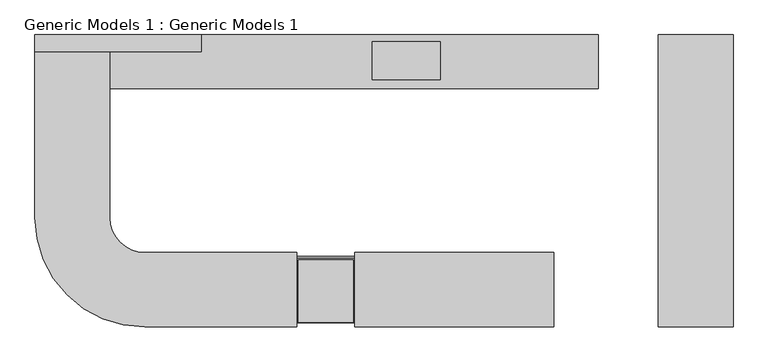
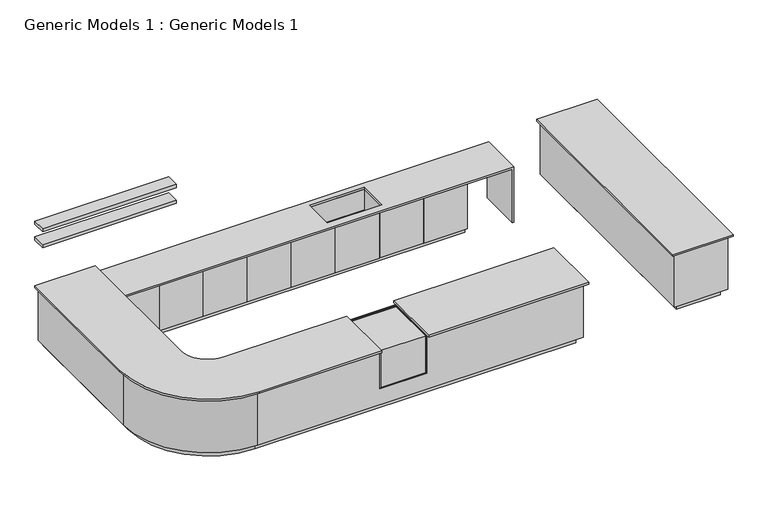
"""IFC4 building model written with IfcOpenShell, lengths in millimetres: proxy geometry, Generic Models 1 : Generic Models 1."""

from ifc_helpers import new_model, si_unit, point, frame, frame_2d, origin, origin_with_axes, place, context, project, spatial, polyline, circle_curve, trimmed, segment, composite_curve, outline, extrude, faceted_brep, source, transform, mapped, element, save
from ifc_brep_helpers import plane_surface, cylinder_surface, revolved_surface, advanced_brep


def generic_models_1_generic_models_1_eb2977bd(model_context):
    return source(origin(), model_context, "Body", "SolidModel", [
        extrude(outline(polyline([(17735.1576528, 9110.3600826), (15735.1576528, 9110.3600826), (15735.1576528, 9310.3600826), (17735.1576528, 9310.3600826), (17735.1576528, 9110.3600826)])), frame((0.0, 0.0, 1950.0), z_axis=(0.0, 0.0, 1.0), x_axis=(1.0, 0.0, 0.0)), (0.0, 0.0, 1.0), 50.0),
        extrude(outline(polyline([(17735.1576528, 9110.3600826), (15735.1576528, 9110.3600826), (15735.1576528, 9310.3600826), (17735.1576528, 9310.3600826), (17735.1576528, 9110.3600826)])), frame((0.0, 0.0, 1700.0), z_axis=(0.0, 0.0, 1.0), x_axis=(1.0, 0.0, 0.0)), (0.0, 0.0, 1.0), 50.0),
        extrude(outline(polyline([(17244.9076528, 8710.3600826), (16589.1576528, 8710.3600826), (16589.1576528, 8726.3600826), (17244.9076528, 8726.3600826), (17244.9076528, 8710.3600826)])), frame((0.0, 0.0, 100.0), z_axis=(0.0, 0.0, 1.0), x_axis=(1.0, 0.0, 0.0)), (0.0, 0.0, 1.0), 730.0),
        extrude(outline(polyline([(21851.1576528, 8710.3600826), (21195.4076528, 8710.3600826), (21195.4076528, 8726.3600826), (21851.1576528, 8726.3600826), (21851.1576528, 8710.3600826)])), frame((0.0, 0.0, 100.0), z_axis=(0.0, 0.0, 1.0), x_axis=(1.0, 0.0, 0.0)), (0.0, 0.0, 1.0), 730.0),
        extrude(outline(polyline([(21191.4076528, 8710.3600826), (20537.6576528, 8710.3600826), (20537.6576528, 8726.3600826), (21191.4076528, 8726.3600826), (21191.4076528, 8710.3600826)])), frame((0.0, 0.0, 100.0), z_axis=(0.0, 0.0, 1.0), x_axis=(1.0, 0.0, 0.0)), (0.0, 0.0, 1.0), 730.0),
        extrude(outline(polyline([(20533.6576528, 8710.3600826), (19879.9076528, 8710.3600826), (19879.9076528, 8726.3600826), (20533.6576528, 8726.3600826), (20533.6576528, 8710.3600826)])), frame((0.0, 0.0, 100.0), z_axis=(0.0, 0.0, 1.0), x_axis=(1.0, 0.0, 0.0)), (0.0, 0.0, 1.0), 730.0),
        extrude(outline(polyline([(19875.9076528, 8710.3600826), (19222.1576528, 8710.3600826), (19222.1576528, 8726.3600826), (19875.9076528, 8726.3600826), (19875.9076528, 8710.3600826)])), frame((0.0, 0.0, 100.0), z_axis=(0.0, 0.0, 1.0), x_axis=(1.0, 0.0, 0.0)), (0.0, 0.0, 1.0), 730.0),
        extrude(outline(polyline([(19218.1576528, 8710.3600826), (18564.4076528, 8710.3600826), (18564.4076528, 8726.3600826), (19218.1576528, 8726.3600826), (19218.1576528, 8710.3600826)])), frame((0.0, 0.0, 100.0), z_axis=(0.0, 0.0, 1.0), x_axis=(1.0, 0.0, 0.0)), (0.0, 0.0, 1.0), 730.0),
        extrude(outline(polyline([(18560.4076528, 8710.3600826), (17906.6576528, 8710.3600826), (17906.6576528, 8726.3600826), (18560.4076528, 8726.3600826), (18560.4076528, 8710.3600826)])), frame((0.0, 0.0, 100.0), z_axis=(0.0, 0.0, 1.0), x_axis=(1.0, 0.0, 0.0)), (0.0, 0.0, 1.0), 730.0),
        extrude(outline(polyline([(17902.6576528, 8710.3600826), (17248.9076528, 8710.3600826), (17248.9076528, 8726.3600826), (17902.6576528, 8726.3600826), (17902.6576528, 8710.3600826)])), frame((0.0, 0.0, 100.0), z_axis=(0.0, 0.0, 1.0), x_axis=(1.0, 0.0, 0.0)), (0.0, 0.0, 1.0), 730.0),
        faceted_brep([(22515.1576528, 9310.3600826, 880.0), (16585.1576528, 9310.3600826, 880.0), (16585.1576528, 8660.3600826, 880.0), (22515.1576528, 8660.3600826, 880.0), (19793.9415675, 9227.2028395, 880.0), (20608.9415675, 9227.2028395, 880.0), (20608.9415675, 8772.2028395, 880.0), (19793.9415675, 8772.2028395, 880.0), (16585.1576528, 8660.3600826, 850.0), (16585.1576528, 9310.3600826, 850.0), (22495.1576528, 9310.3600826, 850.0), (22495.1576528, 8660.3600826, 850.0), (20608.9415675, 9227.2028395, 850.0), (19793.9415675, 9227.2028395, 850.0), (19793.9415675, 8772.2028395, 850.0), (20608.9415675, 8772.2028395, 850.0), (22515.1576528, 9310.3600826, 0.0), (22495.1576528, 9310.3600826, 0.0), (22495.1576528, 8660.3600826, 0.0), (22515.1576528, 8660.3600826, 0.0)], [[[0, 1, 2, 3], [4, 5, 6, 7]], [[8, 9, 10, 11], [12, 13, 14, 15]], [[1, 0, 16, 17, 10, 9]], [[2, 1, 9, 8]], [[3, 2, 8, 11, 18, 19]], [[0, 3, 19, 16]], [[17, 16, 19, 18]], [[17, 18, 11, 10]], [[4, 13, 12, 5]], [[5, 12, 15, 6]], [[6, 15, 14, 7]], [[13, 4, 7, 14]]]),
        faceted_brep([(21855.1576528, 9310.3600826, 850.0), (16585.1576528, 9310.3600826, 850.0), (16585.1576528, 8751.3600826, 850.0), (21855.1576528, 8751.3600826, 850.0), (19793.9415675, 9227.2028395, 850.0), (20608.9415675, 9227.2028395, 850.0), (20608.9415675, 8772.2028395, 850.0), (19793.9415675, 8772.2028395, 850.0), (21855.1576528, 9310.3600826, 100.0), (21855.1576528, 8726.3600826, 100.0), (16585.1576528, 8726.3600826, 100.0), (16585.1576528, 9310.3600826, 100.0), (16585.1576528, 8726.3600826, 800.0), (16585.1576528, 8751.3600826, 800.0), (21855.1576528, 8726.3600826, 800.0), (21855.1576528, 8751.3600826, 800.0), (19793.9415675, 9227.2028395, 522.3034596), (19793.9415675, 8772.2028395, 522.3034596), (20608.9415675, 8772.2028395, 522.3034596), (20608.9415675, 9227.2028395, 522.3034596)], [[[0, 1, 2, 3], [4, 5, 6, 7]], [[8, 9, 10, 11]], [[1, 0, 8, 11]], [[11, 10, 12, 13, 2, 1]], [[10, 9, 14, 12]], [[9, 8, 0, 3, 15, 14]], [[13, 15, 3, 2]], [[15, 13, 12, 14]], [[16, 17, 18, 19]], [[16, 19, 5, 4]], [[19, 18, 6, 5]], [[18, 17, 7, 6]], [[17, 16, 4, 7]]]),
        extrude(outline(composite_curve([segment(polyline([(18885.1576528, 6690.3600826), (18885.1576528, 5790.3600826), (17055.1576528, 5790.3600826)]), True, "CONTINUOUS"), segment(trimmed(circle_curve(frame_2d((17055.1576528, 7110.3600826)), 1320.0), [point((17055.1576528, 5790.3600826))], [point((15735.1576528, 7110.3600826))], False, "CARTESIAN"), True, "CONTINUOUS"), segment(polyline([(15735.1576528, 7110.3600826), (15735.1576528, 9310.3600826), (16635.1576528, 9310.3600826), (16635.1576528, 7110.3600826)]), True, "CONTINUOUS"), segment(trimmed(circle_curve(frame_2d((17055.1576528, 7110.3600826)), 420.0), [point((16635.1576528, 7110.3600826))], [point((17055.1576528, 6690.3600826))], True, "CARTESIAN"), True, "CONTINUOUS"), segment(polyline([(17055.1576528, 6690.3600826), (18885.1576528, 6690.3600826)]), True, "CONTINUOUS")], self_intersect=False)), frame((0.0, 0.0, 950.0), z_axis=(0.0, 0.0, 1.0), x_axis=(1.0, 0.0, 0.0)), (0.0, 0.0, 1.0), 30.0),
        extrude(outline(polyline([(19585.1576528, 5790.3600826), (19585.1576528, 6690.3600826), (21975.1576528, 6690.3600826), (21975.1576528, 5790.3600826), (19585.1576528, 5790.3600826)])), frame((0.0, 0.0, 950.0), z_axis=(0.0, 0.0, 1.0), x_axis=(1.0, 0.0, 0.0)), (0.0, 0.0, 1.0), 30.0),
        extrude(outline(polyline([(23235.1576528, 9310.3600826), (24135.1576528, 9310.3600826), (24135.1576528, 5790.3600826), (23235.1576528, 5790.3600826), (23235.1576528, 9310.3600826)])), frame((0.0, 0.0, 950.0), z_axis=(0.0, 0.0, 1.0), x_axis=(1.0, 0.0, 0.0)), (0.0, 0.0, 1.0), 30.0),
        extrude(outline(polyline([(6615.3600826, 945.0), (6615.3600826, 935.0), (5855.3600826, 935.0), (5855.3600826, 355.0), (5845.3600826, 355.0), (5845.3600826, 945.0), (6615.3600826, 945.0)])), frame((18890.1576528, 0.0, 0.0), z_axis=(1.0, 0.0, 0.0), x_axis=(0.0, 1.0, 0.0)), (0.0, 0.0, 1.0), 690.0),
        faceted_brep([(18885.1576528, 6620.3600826, 930.0), (18885.1576528, 6620.3600826, 950.0), (19585.1576528, 6620.3600826, 950.0), (19585.1576528, 6620.3600826, 930.0), (18885.1576528, 5840.3600826, 950.0), (18885.1576528, 5860.3600826, 930.0), (18885.1576528, 5860.3600826, 350.0), (18885.1576528, 5840.3600826, 350.0), (18900.1576528, 5840.3600826, 950.0), (18900.1576528, 6605.3600826, 950.0), (19570.1576528, 6605.3600826, 950.0), (19570.1576528, 5840.3600826, 950.0), (19585.1576528, 5840.3600826, 950.0), (18900.1576528, 5840.3600826, 365.0), (18900.1576528, 5845.3600826, 365.0), (18900.1576528, 5845.3600826, 945.0), (18900.1576528, 6605.3600826, 945.0), (18890.1576528, 5845.3600826, 945.0), (18890.1576528, 6615.3600826, 945.0), (19580.1576528, 6615.3600826, 945.0), (19580.1576528, 5845.3600826, 945.0), (19570.1576528, 5845.3600826, 945.0), (19570.1576528, 6605.3600826, 945.0), (18890.1576528, 5845.3600826, 355.0), (18890.1576528, 5855.3600826, 355.0), (18890.1576528, 5855.3600826, 935.0), (18890.1576528, 6615.3600826, 935.0), (18900.1576528, 5855.3600826, 935.0), (18900.1576528, 6605.3600826, 935.0), (19570.1576528, 6605.3600826, 935.0), (19570.1576528, 5855.3600826, 935.0), (19580.1576528, 5855.3600826, 935.0), (19580.1576528, 6615.3600826, 935.0), (18900.1576528, 5855.3600826, 365.0), (18900.1576528, 5860.3600826, 365.0), (18900.1576528, 5860.3600826, 930.0), (18900.1576528, 6605.3600826, 930.0), (19585.1576528, 5860.3600826, 930.0), (19570.1576528, 5860.3600826, 930.0), (19570.1576528, 6605.3600826, 930.0), (19585.1576528, 5860.3600826, 350.0), (19585.1576528, 5840.3600826, 350.0), (19570.1576528, 5840.3600826, 365.0), (19570.1576528, 5845.3600826, 365.0), (19580.1576528, 5845.3600826, 355.0), (19580.1576528, 5855.3600826, 355.0), (19570.1576528, 5855.3600826, 365.0), (19570.1576528, 5860.3600826, 365.0)], [[[0, 1, 2, 3]], [[4, 1, 0, 5, 6, 7]], [[2, 1, 4, 8, 9, 10, 11, 12]], [[8, 13, 14, 15, 16, 9]], [[15, 17, 18, 19, 20, 21, 22, 16]], [[23, 24, 25, 26, 18, 17]], [[25, 27, 28, 29, 30, 31, 32, 26]], [[27, 33, 34, 35, 36, 28]], [[0, 3, 37, 38, 39, 36, 35, 5]], [[7, 6, 40, 41]], [[8, 4, 7, 41, 12, 11, 42, 13]], [[17, 15, 14, 43, 21, 20, 44, 23]], [[27, 25, 24, 45, 31, 30, 46, 33]], [[5, 35, 34, 47, 38, 37, 40, 6]], [[41, 40, 37, 3, 2, 12]], [[34, 33, 46, 47]], [[24, 23, 44, 45]], [[14, 13, 42, 43]], [[46, 30, 29, 39, 38, 47]], [[45, 44, 20, 19, 32, 31]], [[42, 11, 10, 22, 21, 43]], [[36, 39, 29, 28]], [[26, 32, 19, 18]], [[16, 22, 10, 9]]]),
        extrude(outline(polyline([(6620.3600826, 495.0), (6620.3600826, 484.8196237), (5913.7192965, 350.0), (5860.3600826, 350.0), (6620.3600826, 495.0)])), frame((18885.1576528, 0.0, 0.0), z_axis=(1.0, 0.0, 0.0), x_axis=(0.0, 1.0, 0.0)), (0.0, 0.0, 1.0), 700.0),
        extrude(outline(polyline([(6620.3600826, 640.0), (6620.3600826, 629.8196237), (5860.3600826, 484.8196237), (5860.3600826, 495.0), (6620.3600826, 640.0)])), frame((18885.1576528, 0.0, 0.0), z_axis=(1.0, 0.0, 0.0), x_axis=(0.0, 1.0, 0.0)), (0.0, 0.0, 1.0), 700.0),
        extrude(outline(polyline([(6620.3600826, 785.0), (6620.3600826, 774.8196237), (5860.3600826, 629.8196237), (5860.3600826, 640.0), (6620.3600826, 785.0)])), frame((18885.1576528, 0.0, 0.0), z_axis=(1.0, 0.0, 0.0), x_axis=(0.0, 1.0, 0.0)), (0.0, 0.0, 1.0), 700.0),
        extrude(outline(polyline([(6620.3600826, 930.0), (6620.3600826, 919.8196237), (5860.3600826, 774.8196237), (5860.3600826, 785.0), (6620.3600826, 930.0)])), frame((18885.1576528, 0.0, 0.0), z_axis=(1.0, 0.0, 0.0), x_axis=(0.0, 1.0, 0.0)), (0.0, 0.0, 1.0), 700.0),
        advanced_brep(
        [(16585.1576528, 7110.3600826, 950.0), (16585.1576528, 9310.3600826, 950.0), (15785.1576528, 9310.3600826, 950.0), (15785.1576528, 7110.3600826, 950.0), (17055.1576528, 5840.3600826, 950.0), (18885.1576528, 5840.3600826, 950.0), (18885.1576528, 6620.3600826, 950.0), (19585.1576528, 6620.3600826, 950.0), (19585.1576528, 5840.3600826, 950.0), (21925.1576528, 5840.3600826, 950.0), (21925.1576528, 6640.3600826, 950.0), (17055.1576528, 6640.3600826, 950.0), (16585.1576528, 7110.3600826, 100.0), (17055.1576528, 6640.3600826, 100.0), (21925.1576528, 6640.3600826, 100.0), (21925.1576528, 5840.3600826, 100.0), (17055.1576528, 5840.3600826, 100.0), (15785.1576528, 7110.3600826, 100.0), (15785.1576528, 9310.3600826, 100.0), (16585.1576528, 9310.3600826, 100.0), (19585.1576528, 5840.3600826, 350.0), (18885.1576528, 5840.3600826, 350.0), (19585.1576528, 6620.3600826, 350.0), (18885.1576528, 6620.3600826, 350.0), (18885.1576528, 5860.3600826, 350.0), (19585.1576528, 5860.3600826, 350.0), (19585.1576528, 5880.3600826, 353.8157895), (19585.1576528, 5880.3600826, 488.6354131), (19585.1576528, 5860.3600826, 484.8196237), (19585.1576528, 5860.3600826, 930.0), (19585.1576528, 5860.3600826, 785.0), (19585.1576528, 5880.3600826, 788.8157895), (19585.1576528, 5880.3600826, 930.0), (19585.1576528, 5860.3600826, 640.0), (19585.1576528, 5880.3600826, 643.8157895), (19585.1576528, 5880.3600826, 778.6354131), (19585.1576528, 5860.3600826, 774.8196237), (19585.1576528, 5880.3600826, 633.6354131), (19585.1576528, 5860.3600826, 629.8196237), (19585.1576528, 5860.3600826, 495.0), (19585.1576528, 5880.3600826, 498.8157895), (18885.1576528, 5860.3600826, 484.8196237), (18885.1576528, 5880.3600826, 488.6354131), (18885.1576528, 5880.3600826, 353.8157895), (18885.1576528, 5880.3600826, 643.8157895), (18885.1576528, 5860.3600826, 640.0), (18885.1576528, 5860.3600826, 774.8196237), (18885.1576528, 5880.3600826, 778.6354131), (18885.1576528, 5880.3600826, 788.8157895), (18885.1576528, 5860.3600826, 785.0), (18885.1576528, 5860.3600826, 930.0), (18885.1576528, 5880.3600826, 930.0), (18885.1576528, 5860.3600826, 629.8196237), (18885.1576528, 5880.3600826, 633.6354131), (18885.1576528, 5880.3600826, 498.8157895), (18885.1576528, 5860.3600826, 495.0), (18880.1576528, 5880.3600826, 643.8157895), (18880.1576528, 5880.3600826, 778.6354131), (18880.1576528, 5860.3600826, 774.8196237), (18880.1576528, 5860.3600826, 640.0), (18880.1576528, 5880.3600826, 788.8157895), (18880.1576528, 5880.3600826, 930.0), (18880.1576528, 5860.3600826, 930.0), (18880.1576528, 5860.3600826, 785.0), (18880.1576528, 5860.3600826, 629.8196237), (18880.1576528, 5860.3600826, 495.0), (18880.1576528, 5880.3600826, 498.8157895), (18880.1576528, 5880.3600826, 633.6354131), (18880.1576528, 5860.3600826, 484.8196237), (18880.1576528, 5860.3600826, 350.0), (18880.1576528, 5880.3600826, 353.8157895), (18880.1576528, 5880.3600826, 488.6354131), (19590.1576528, 5860.3600826, 930.0), (19590.1576528, 5880.3600826, 930.0), (19590.1576528, 5880.3600826, 788.8157895), (19590.1576528, 5860.3600826, 785.0), (19590.1576528, 5860.3600826, 640.0), (19590.1576528, 5860.3600826, 774.8196237), (19590.1576528, 5880.3600826, 778.6354131), (19590.1576528, 5880.3600826, 643.8157895), (19590.1576528, 5880.3600826, 633.6354131), (19590.1576528, 5880.3600826, 498.8157895), (19590.1576528, 5860.3600826, 495.0), (19590.1576528, 5860.3600826, 629.8196237), (19590.1576528, 5880.3600826, 488.6354131), (19590.1576528, 5880.3600826, 353.8157895), (19590.1576528, 5860.3600826, 350.0), (19590.1576528, 5860.3600826, 484.8196237)],
        [
            (0, 1),
            (1, 2),
            (2, 3),
            (3, 4, circle_curve(frame((17055.1576528, 7110.3600826, 950.0), z_axis=(0.0, 0.0, 1.0), x_axis=(1.0, 0.0, 0.0)), 1270.0)),
            (4, 5),
            (5, 6),
            (6, 7),
            (7, 8),
            (8, 9),
            (9, 10),
            (10, 11),
            (11, 0, circle_curve(frame((17055.1576528, 7110.3600826, 950.0), z_axis=(0.0, 0.0, -1.0), x_axis=(1.0, 0.0, 0.0)), 470.0)),
            (12, 13, circle_curve(frame((17055.1576528, 7110.3600826, 100.0), z_axis=(0.0, 0.0, 1.0), x_axis=(1.0, 0.0, 0.0)), 470.0)),
            (13, 14),
            (14, 15),
            (15, 16),
            (16, 17, circle_curve(frame((17055.1576528, 7110.3600826, 100.0), z_axis=(0.0, 0.0, -1.0), x_axis=(1.0, 0.0, 0.0)), 1270.0)),
            (17, 18),
            (18, 19),
            (19, 12),
            (0, 12),
            (19, 1),
            (18, 2),
            (17, 3),
            (16, 4),
            (15, 9),
            (8, 20),
            (20, 21),
            (21, 5),
            (14, 10),
            (13, 11),
            (22, 23),
            (23, 24),
            (24, 21),
            (20, 25),
            (25, 22),
            (22, 7),
            (6, 23),
            (25, 26),
            (26, 27),
            (27, 28),
            (28, 25),
            (29, 30),
            (30, 31),
            (31, 32),
            (32, 29),
            (33, 34),
            (34, 35),
            (35, 36),
            (36, 33),
            (37, 38),
            (38, 39),
            (39, 40),
            (40, 37),
            (24, 41),
            (41, 42),
            (42, 43),
            (43, 24),
            (44, 45),
            (45, 46),
            (46, 47),
            (47, 44),
            (48, 49),
            (49, 50),
            (50, 51),
            (51, 48),
            (52, 53),
            (53, 54),
            (54, 55),
            (55, 52),
            (56, 57),
            (57, 58),
            (58, 59),
            (59, 56),
            (60, 61),
            (61, 62),
            (62, 63),
            (63, 60),
            (64, 65),
            (65, 66),
            (66, 67),
            (67, 64),
            (68, 69),
            (69, 70),
            (70, 71),
            (71, 68),
            (59, 45),
            (44, 56),
            (58, 46),
            (57, 47),
            (63, 49),
            (48, 60),
            (62, 50),
            (61, 51),
            (67, 53),
            (52, 64),
            (66, 54),
            (65, 55),
            (71, 42),
            (41, 68),
            (70, 43),
            (69, 24),
            (72, 73),
            (73, 74),
            (74, 75),
            (75, 72),
            (76, 77),
            (77, 78),
            (78, 79),
            (79, 76),
            (80, 81),
            (81, 82),
            (82, 83),
            (83, 80),
            (84, 85),
            (85, 86),
            (86, 87),
            (87, 84),
            (75, 30),
            (29, 72),
            (74, 31),
            (73, 32),
            (79, 34),
            (33, 76),
            (78, 35),
            (77, 36),
            (83, 38),
            (37, 80),
            (82, 39),
            (81, 40),
            (87, 28),
            (27, 84),
            (86, 25),
            (85, 26),
        ],
        [
            plane_surface(frame((16585.1576528, 7110.3600826, 950.0), z_axis=(0.0, 0.0, 1.0), x_axis=(0.0, 1.0, 0.0))),
            plane_surface(frame((16585.1576528, 7110.3600826, 100.0), z_axis=(0.0, 0.0, -1.0), x_axis=(0.0, -1.0, 0.0))),
            plane_surface(frame((16585.1576528, 7110.3600826, 950.0), z_axis=(1.0, 0.0, 0.0), x_axis=(0.0, 0.0, -1.0))),
            plane_surface(frame((16585.1576528, 9310.3600826, 950.0), z_axis=(0.0, 1.0, 0.0), x_axis=(0.0, 0.0, -1.0))),
            plane_surface(frame((15785.1576528, 9310.3600826, 950.0), z_axis=(-1.0, 0.0, 0.0), x_axis=(0.0, 0.0, -1.0))),
            cylinder_surface(frame((17055.1576528, 7110.3600826, 100.0), z_axis=(0.0, 0.0, 1.0), x_axis=(1.0, 0.0, 0.0)), 1270.0),
            plane_surface(frame((17055.1576528, 5840.3600826, 950.0), z_axis=(0.0, -1.0, 0.0), x_axis=(0.0, 0.0, -1.0))),
            plane_surface(frame((21925.1576528, 5840.3600826, 950.0), z_axis=(1.0, 0.0, 0.0), x_axis=(0.0, 0.0, -1.0))),
            plane_surface(frame((21925.1576528, 6640.3600826, 950.0), z_axis=(0.0, 1.0, 0.0), x_axis=(0.0, 0.0, -1.0))),
            revolved_surface(polyline([(17525.1576528, 7110.3600826, 100.0), (17525.1576528, 7110.3600826, 950.0)]), (17055.1576528, 7110.3600826, 100.0), (0.0, 0.0, -1.0)),
            plane_surface(frame((18885.1576528, 6620.3600826, 350.0), z_axis=(0.0, 0.0, 1.0), x_axis=(1.0, 0.0, 0.0))),
            plane_surface(frame((18885.1576528, 6620.3600826, 350.0), z_axis=(0.0, -1.0, 0.0), x_axis=(0.0, 0.0, 1.0))),
            plane_surface(frame((19585.1576528, 6620.3600826, 350.0), z_axis=(-1.0, 0.0, 0.0), x_axis=(0.0, 0.0, 1.0))),
            plane_surface(frame((18885.1576528, 5840.3600826, 350.0), z_axis=(1.0, 0.0, 0.0), x_axis=(0.0, 0.0, 1.0))),
            plane_surface(frame((18880.1576528, 5860.3600826, 640.0), z_axis=(1.0, 0.0, 0.0), x_axis=(0.0, -0.9822819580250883, -0.18740905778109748))),
            plane_surface(frame((18880.1576528, 5880.3600826, 643.8157895), z_axis=(0.0, -0.18740905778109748, 0.9822819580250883), x_axis=(1.0, 0.0, 0.0))),
            plane_surface(frame((18880.1576528, 5860.3600826, 640.0), z_axis=(0.0, 1.0, 0.0), x_axis=(1.0, 0.0, 0.0))),
            plane_surface(frame((18880.1576528, 5860.3600826, 774.8196237), z_axis=(0.0, 0.18740905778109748, -0.9822819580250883), x_axis=(1.0, 0.0, 0.0))),
            plane_surface(frame((18880.1576528, 5880.3600826, 778.6354131), z_axis=(0.0, -1.0, 0.0), x_axis=(1.0, 0.0, 0.0))),
            plane_surface(frame((18880.1576528, 5880.3600826, 788.8157895), z_axis=(0.0, -0.18740905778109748, 0.9822819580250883), x_axis=(1.0, 0.0, 0.0))),
            plane_surface(frame((18880.1576528, 5860.3600826, 785.0), z_axis=(0.0, 1.0, 0.0), x_axis=(1.0, 0.0, 0.0))),
            plane_surface(frame((18880.1576528, 5860.3600826, 930.0), z_axis=(0.0, 0.0, -1.0), x_axis=(1.0, 0.0, 0.0))),
            plane_surface(frame((18880.1576528, 5880.3600826, 930.0), z_axis=(0.0, -1.0, 0.0), x_axis=(1.0, 0.0, 0.0))),
            plane_surface(frame((18880.1576528, 5860.3600826, 629.8196237), z_axis=(0.0, 0.18740905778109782, -0.9822819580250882), x_axis=(1.0, 0.0, 0.0))),
            plane_surface(frame((18880.1576528, 5880.3600826, 633.6354131), z_axis=(0.0, -1.0, 0.0), x_axis=(1.0, 0.0, 0.0))),
            plane_surface(frame((18880.1576528, 5880.3600826, 498.8157895), z_axis=(0.0, -0.18740905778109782, 0.9822819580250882), x_axis=(1.0, 0.0, 0.0))),
            plane_surface(frame((18880.1576528, 5860.3600826, 495.0), z_axis=(0.0, 1.0, 0.0), x_axis=(1.0, 0.0, 0.0))),
            plane_surface(frame((18880.1576528, 5860.3600826, 484.8196237), z_axis=(0.0, 0.18740905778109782, -0.9822819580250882), x_axis=(1.0, 0.0, 0.0))),
            plane_surface(frame((18880.1576528, 5880.3600826, 488.6354131), z_axis=(0.0, -1.0, 0.0), x_axis=(1.0, 0.0, 0.0))),
            plane_surface(frame((18880.1576528, 5880.3600826, 353.8157895), z_axis=(0.0, -0.18740905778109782, 0.9822819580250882), x_axis=(1.0, 0.0, 0.0))),
            plane_surface(frame((18880.1576528, 5860.3600826, 350.0), z_axis=(0.0, 1.0, 0.0), x_axis=(1.0, 0.0, 0.0))),
            plane_surface(frame((19590.1576528, 5860.3600826, 785.0), z_axis=(-1.0, 0.0, 0.0), x_axis=(0.0, 0.0, -1.0))),
            plane_surface(frame((19590.1576528, 5860.3600826, 930.0), z_axis=(0.0, 1.0, 0.0), x_axis=(-1.0, 0.0, 0.0))),
            plane_surface(frame((19590.1576528, 5860.3600826, 785.0), z_axis=(0.0, -0.18740905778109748, 0.9822819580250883), x_axis=(-1.0, 0.0, 0.0))),
            plane_surface(frame((19590.1576528, 5880.3600826, 788.8157895), z_axis=(0.0, -1.0, 0.0), x_axis=(-1.0, 0.0, 0.0))),
            plane_surface(frame((19590.1576528, 5880.3600826, 930.0), z_axis=(0.0, 0.0, -1.0), x_axis=(-1.0, 0.0, 0.0))),
            plane_surface(frame((19590.1576528, 5860.3600826, 640.0), z_axis=(0.0, -0.18740905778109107, 0.9822819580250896), x_axis=(-1.0, 0.0, 0.0))),
            plane_surface(frame((19590.1576528, 5880.3600826, 643.8157895), z_axis=(0.0, -1.0, 0.0), x_axis=(-1.0, 0.0, 0.0))),
            plane_surface(frame((19590.1576528, 5880.3600826, 778.6354131), z_axis=(0.0, 0.18740905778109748, -0.9822819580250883), x_axis=(-1.0, 0.0, 0.0))),
            plane_surface(frame((19590.1576528, 5860.3600826, 774.8196237), z_axis=(0.0, 1.0, 0.0), x_axis=(-1.0, 0.0, 0.0))),
            plane_surface(frame((19590.1576528, 5880.3600826, 633.6354131), z_axis=(0.0, 0.18740905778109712, -0.9822819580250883), x_axis=(-1.0, 0.0, 0.0))),
            plane_surface(frame((19590.1576528, 5860.3600826, 629.8196237), z_axis=(0.0, 1.0, 0.0), x_axis=(-1.0, 0.0, 0.0))),
            plane_surface(frame((19590.1576528, 5860.3600826, 495.0), z_axis=(0.0, -0.18740905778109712, 0.9822819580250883), x_axis=(-1.0, 0.0, 0.0))),
            plane_surface(frame((19590.1576528, 5880.3600826, 498.8157895), z_axis=(0.0, -1.0, 0.0), x_axis=(-1.0, 0.0, 0.0))),
            plane_surface(frame((19590.1576528, 5880.3600826, 488.6354131), z_axis=(0.0, 0.18740905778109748, -0.9822819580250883), x_axis=(-1.0, 0.0, 0.0))),
            plane_surface(frame((19590.1576528, 5860.3600826, 484.8196237), z_axis=(0.0, 1.0, 0.0), x_axis=(-1.0, 0.0, 0.0))),
            plane_surface(frame((19590.1576528, 5860.3600826, 350.0), z_axis=(0.0, -0.18740905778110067, 0.9822819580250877), x_axis=(-1.0, 0.0, 0.0))),
            plane_surface(frame((19590.1576528, 5880.3600826, 353.8157895), z_axis=(0.0, -1.0, 0.0), x_axis=(-1.0, 0.0, 0.0))),
        ],
        [
            (0, [[1, 2, 3, 4, 5, 6, 7, 8, 9, 10, 11, 12]]),
            (1, [[13, 14, 15, 16, 17, 18, 19, 20]]),
            (2, [[-1, 21, -20, 22]]),
            (3, [[-2, -22, -19, 23]]),
            (4, [[-3, -23, -18, 24]]),
            (5, [[-4, -24, -17, 25]]),
            (6, [[-16, 26, -9, 27, 28, 29, -5, -25]]),
            (7, [[-10, -26, -15, 30]]),
            (8, [[-11, -30, -14, 31]]),
            (9, [[-12, -31, -13, -21]]),
            (10, [[32, 33, 34, -28, 35, 36]]),
            (11, [[-32, 37, -7, 38]]),
            (12, [[-37, -36, 39, 40, 41, 42, -35, -27, -8], [43, 44, 45, 46], [47, 48, 49, 50], [51, 52, 53, 54]]),
            (13, [[-38, -6, -29, -34, 55, 56, 57, 58, -33], [59, 60, 61, 62], [63, 64, 65, 66], [67, 68, 69, 70]]),
            (14, [[71, 72, 73, 74]]),
            (14, [[75, 76, 77, 78]]),
            (14, [[79, 80, 81, 82]]),
            (14, [[83, 84, 85, 86]]),
            (15, [[-74, 87, -59, 88]]),
            (16, [[-73, 89, -60, -87]]),
            (17, [[-72, 90, -61, -89]]),
            (18, [[-71, -88, -62, -90]]),
            (19, [[-78, 91, -63, 92]]),
            (20, [[-77, 93, -64, -91]]),
            (21, [[-76, 94, -65, -93]]),
            (22, [[-75, -92, -66, -94]]),
            (23, [[-82, 95, -67, 96]]),
            (24, [[-81, 97, -68, -95]]),
            (25, [[-80, 98, -69, -97]]),
            (26, [[-79, -96, -70, -98]]),
            (27, [[-86, 99, -56, 100]]),
            (28, [[-85, 101, -57, -99]]),
            (29, [[-84, 102, -58, -101]]),
            (30, [[-83, -100, -55, -102]]),
            (31, [[103, 104, 105, 106]]),
            (31, [[107, 108, 109, 110]]),
            (31, [[111, 112, 113, 114]]),
            (31, [[115, 116, 117, 118]]),
            (32, [[-106, 119, -43, 120]]),
            (33, [[-105, 121, -44, -119]]),
            (34, [[-104, 122, -45, -121]]),
            (35, [[-103, -120, -46, -122]]),
            (36, [[-110, 123, -47, 124]]),
            (37, [[-109, 125, -48, -123]]),
            (38, [[-108, 126, -49, -125]]),
            (39, [[-107, -124, -50, -126]]),
            (40, [[-114, 127, -51, 128]]),
            (41, [[-113, 129, -52, -127]]),
            (42, [[-112, 130, -53, -129]]),
            (43, [[-111, -128, -54, -130]]),
            (44, [[-118, 131, -41, 132]]),
            (45, [[-117, 133, -42, -131]]),
            (46, [[-116, 134, -39, -133]]),
            (47, [[-115, -132, -40, -134]]),
        ],
    ),
        faceted_brep([(23285.1576528, 9310.3600826, 950.0), (23285.1576528, 5840.3600826, 950.0), (24085.1576528, 5840.3600826, 950.0), (24085.1576528, 9310.3600826, 950.0), (23285.1576528, 9310.3600826, 100.0), (24085.1576528, 9310.3600826, 100.0), (24085.1576528, 5840.3600826, 100.0), (23285.1576528, 5840.3600826, 100.0)], [[[0, 1, 2, 3]], [[4, 5, 6, 7]], [[1, 0, 4, 7]], [[2, 1, 7, 6]], [[3, 2, 6, 5]], [[0, 3, 5, 4]]]),
        extrude(outline(composite_curve([segment(polyline([(15855.1576528, 7110.3600826), (15855.1576528, 9310.3600826), (16515.1576528, 9310.3600826), (21855.1576528, 9310.3600826), (21855.1576528, 8780.3600826), (16515.1576528, 8780.3600826), (16515.1576528, 7110.3600826)]), True, "CONTINUOUS"), segment(trimmed(circle_curve(frame_2d((17055.1576528, 7110.3600826)), 540.0), [point((16515.1576528, 7110.3600826))], [point((17055.1576528, 6570.3600826))], True, "CARTESIAN"), True, "CONTINUOUS"), segment(polyline([(17055.1576528, 6570.3600826), (21855.1576528, 6570.3600826), (21855.1576528, 5910.3600826), (17055.1576528, 5910.3600826)]), True, "CONTINUOUS"), segment(trimmed(circle_curve(frame_2d((17055.1576528, 7110.3600826)), 1200.0), [point((17055.1576528, 5910.3600826))], [point((15855.1576528, 7110.3600826))], False, "CARTESIAN"), True, "CONTINUOUS")], self_intersect=False)), origin_with_axes(), (0.0, 0.0, 1.0), 100.0),
        extrude(outline(polyline([(23355.1576528, 9310.3600826), (24015.1576528, 9310.3600826), (24015.1576528, 5910.3600826), (23355.1576528, 5910.3600826), (23355.1576528, 9310.3600826)])), origin_with_axes(), (0.0, 0.0, 1.0), 100.0),
    ])


if __name__ == "__main__":
    model = new_model("IFC4")
    model_context = context("Model", 3, world=origin())
    ifc_project = project(units=[si_unit("LENGTHUNIT", "METRE", prefix="MILLI")], contexts=[model_context])
    site = spatial("IfcSite", under=ifc_project)
    building = spatial("IfcBuilding", under=site)
    placement = place(None, origin())
    generic_models_1_generic_models_1_shape = generic_models_1_generic_models_1_eb2977bd(model_context)
    element("IfcBuildingElementProxy", 1, Name="Generic Models 1 : Generic Models 1", ObjectType="Generic Models 1 : Generic Models 1", at=placement, inside=building, context=model_context, shape_type="MappedRepresentation", body=[
        mapped(generic_models_1_generic_models_1_shape, transform((0.0, 0.0, 0.0), x_axis=(1.0, 0.0, 0.0), y_axis=(0.0, 1.0, 0.0), z_axis=(0.0, 0.0, 1.0))),
    ])
    save(model, "model.ifc")
